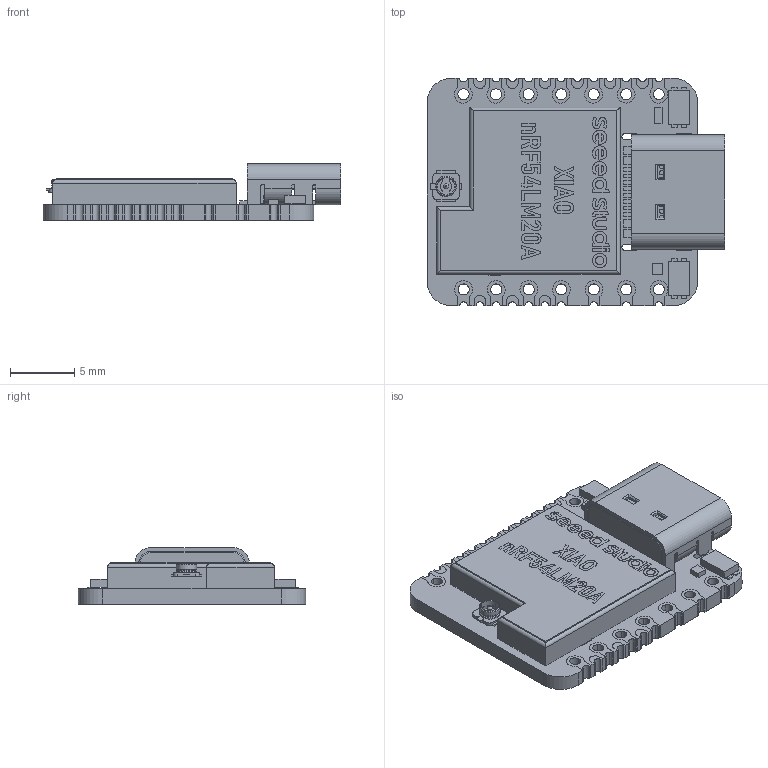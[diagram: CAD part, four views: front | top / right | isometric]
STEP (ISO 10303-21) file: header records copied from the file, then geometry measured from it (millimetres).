
FILE_DESCRIPTION(/* description */ ('KiCad electronic assembly'),/* implementation_level */ '2;1');
FILE_NAME(/* name */ 'XIAO nRF54LM20A Plus.step',/* time_stamp */ '2026-10-16T23:55:09+05:30',/* author */ (''),/* organization */ (''),/* preprocessor_version */ 'ST-DEVELOPER v20.2',/* originating_system */ 'Autodesk Translation Framework v15.15.0.0',/* authorisation */ '');
FILE_SCHEMA (('AUTOMOTIVE_DESIGN { 1 0 10303 214 3 1 1 }'));
Length unit declared in the file: millimetre
Products named in the file (38): XIAO nRF54l15 1; 2026-10-16-16-40-45-794; 2026-10-16-16-40-45-806; 2026-10-16-16-40-45-806_1; 2026-10-16-16-40-45-817; 2026-10-16-16-40-45-816; 2026-10-16-16-40-45-816_1; 2026-10-16-16-40-45-816_2; 2026-10-16-16-40-45-816_3; 2026-10-16-16-40-45-810; 2026-10-16-16-40-45-811; 2026-10-16-16-40-45-811_1; 2026-10-16-16-40-45-811_2; 2026-10-16-16-40-45-812; 2026-10-16-16-40-45-812_1; 2026-10-16-16-40-45-812_2; 2026-10-16-16-40-45-812_3; 2026-10-16-16-40-45-812_4; 2026-10-16-16-40-45-812_5; 2026-10-16-16-40-45-813; 2026-10-16-16-40-45-813_1; 2026-10-16-16-40-45-813_2; 2026-10-16-16-40-45-813_3; 2026-10-16-16-40-45-813_4; 2026-10-16-16-40-45-813_5; 2026-10-16-16-40-45-814; 2026-10-16-16-40-45-814_1; 2026-10-16-16-40-45-814_2; 2026-10-16-16-40-45-816_4; 2026-10-16-16-40-45-814_3; 2026-10-16-16-40-45-815; 2026-10-16-16-40-45-815_1; 2026-10-16-16-40-45-814_4; 2026-10-16-16-40-45-815_2; 2026-10-16-16-49-42-377; 2026-10-16-16-49-42-386; 2026-10-16-16-49-42-404; 2026-10-16-16-50-19-148
Assembly tree (39 placements, depth 7):
  XIAO nRF54l15 1
    2026-10-16-16-40-45-794
      2026-10-16-16-40-45-806
        2026-10-16-16-40-45-806_1
          2026-10-16-16-40-45-817
            2026-10-16-16-40-45-816
              2026-10-16-16-40-45-816_1
              2026-10-16-16-40-45-816_2
              2026-10-16-16-40-45-816_3
              2026-10-16-16-40-45-810
              2026-10-16-16-40-45-811
              2026-10-16-16-40-45-811_1
              2026-10-16-16-40-45-811_2
              2026-10-16-16-40-45-812
              2026-10-16-16-40-45-812_1
              2026-10-16-16-40-45-812_2
              2026-10-16-16-40-45-812_3
              2026-10-16-16-40-45-812_4
              2026-10-16-16-40-45-812_5
              2026-10-16-16-40-45-813
              2026-10-16-16-40-45-813_1
              2026-10-16-16-40-45-813_2
              2026-10-16-16-40-45-813_3
              2026-10-16-16-40-45-813_4
              2026-10-16-16-40-45-813_5
              2026-10-16-16-40-45-814
              2026-10-16-16-40-45-814_1
              2026-10-16-16-40-45-814_2
              2026-10-16-16-40-45-816_4
              2026-10-16-16-40-45-814_3
          2026-10-16-16-40-45-815
            2026-10-16-16-40-45-814_4
            2026-10-16-16-40-45-815_2
    2026-10-16-16-40-45-815_1
      2026-10-16-16-40-45-814_4
      2026-10-16-16-40-45-815_2
    2026-10-16-16-49-42-377
      2026-10-16-16-49-42-386
        2026-10-16-16-49-42-404
          2026-10-16-16-50-19-148
Bounding box: 23.26 x 17.78 x 4.42 mm (x, y, z)
Volume: 695.3 mm3; surface area: 2631.2 mm2
Topology: 78 solids, 78 shells, 1519 faces, 3852 edges, 2533 vertices
Faces by surface type: plane 948, cylinder 315, bspline 229, torus 12, cone 9, sphere 6
Full cylindrical faces by diameter (mm): 0.4 x1, 0.5 x2, 0.6 x2, 0.85 x1, 1.2 x12, 1.376 x1, 1.488 x1, 1.6 x2, 1.61 x8
Entity records: 46758 total; most frequent: CARTESIAN_POINT 10763, ORIENTED_EDGE 7568, DIRECTION 6654, EDGE_CURVE 3784, LINE 2676, VECTOR 2676, VERTEX_POINT 2493, AXIS2_PLACEMENT_3D 1989
